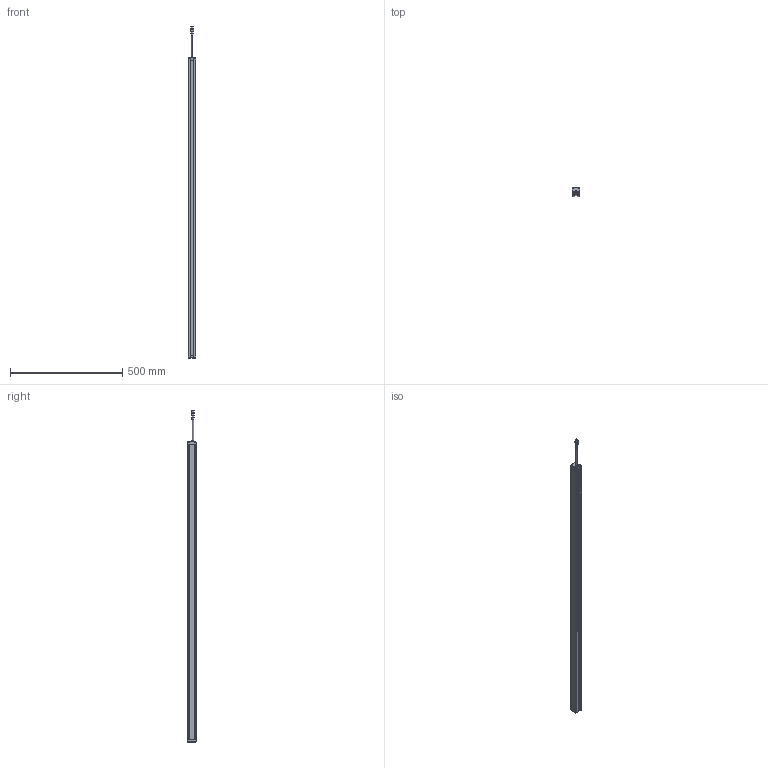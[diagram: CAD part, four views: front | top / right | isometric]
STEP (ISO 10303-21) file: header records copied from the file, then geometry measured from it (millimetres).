
FILE_DESCRIPTION((''),'2;1');
FILE_NAME('PRT0033','2026-03-31T13:43:47',('Administrator'),(''),'CREO PARAMETRIC BY PTC INC, 2016510','CREO PARAMETRIC BY PTC INC, 2016510','');
FILE_SCHEMA(('AUTOMOTIVE_DESIGN { 1 0 10303 214 1 1 1 1 }'));
Length unit declared in the file: millimetre
Products named in the file (1): PRT0033
Bounding box: 33 x 38 x 1481.9 mm (x, y, z)
Surface area: 292605.2 mm2 (no closed solid volume)
Topology: 0 solids, 12 shells, 813 faces, 2142 edges, 1348 vertices
Faces by surface type: plane 384, cylinder 233, extrusion 88, sphere 40, torus 36, cone 28, bspline 4
Entity records: 31857 total; most frequent: CARTESIAN_POINT 5998, ORIENTED_EDGE 4180, DIRECTION 3961, EDGE_CURVE 2090, VERTEX_POINT 1348, AXIS2_PLACEMENT_3D 1347, VECTOR 1267, LINE 1179
